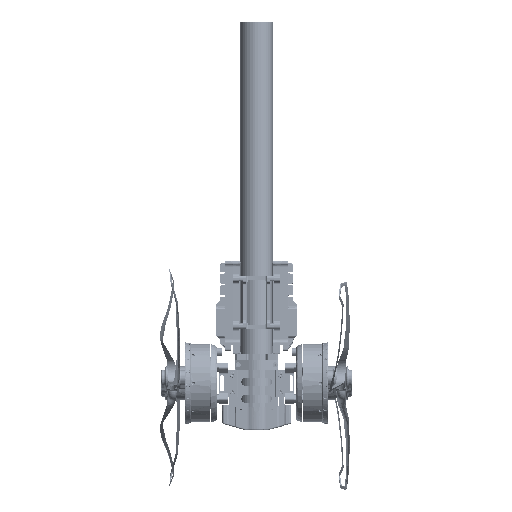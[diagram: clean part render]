
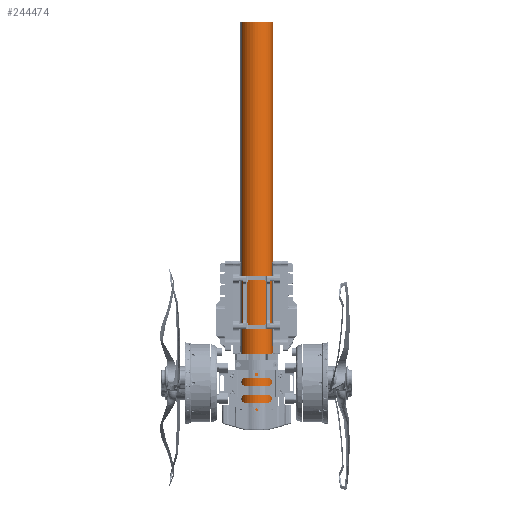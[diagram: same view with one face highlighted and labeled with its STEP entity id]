
A CAD part, left-side view. The second image highlights one B-rep face of the part: STEP entity #244474.
In plain terms, the highlighted cylindrical face has radius 25 mm (diameter 50 mm), a partial arc.
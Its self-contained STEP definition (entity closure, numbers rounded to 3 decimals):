
#2861 = VERTEX_POINT ( 'NONE', #303610 ) ;
#7469 = CYLINDRICAL_SURFACE ( 'NONE', #423863, 25. ) ;
#19576 = AXIS2_PLACEMENT_3D ( 'NONE', #334166, #376784, #296548 ) ;
#23433 = VECTOR ( 'NONE', #344072, 1000. ) ;
#29420 = CARTESIAN_POINT ( 'NONE',  ( -10.881, 22.508, 556. ) ) ;
#43608 = CIRCLE ( 'NONE', #19576, 25. ) ;
#76650 = EDGE_CURVE ( 'NONE', #239993, #486248, #383455, .T. ) ;
#99646 = CARTESIAN_POINT ( 'NONE',  ( 10.881, -22.508, 556. ) ) ;
#119485 = ORIENTED_EDGE ( 'NONE', *, *, #366237, .T. ) ;
#119750 = EDGE_CURVE ( 'NONE', #333189, #2861, #43608, .T. ) ;
#120557 = DIRECTION ( 'NONE',  ( 0., 0., -1. ) ) ;
#123044 = DIRECTION ( 'NONE',  ( 0., 0., -1. ) ) ;
#127967 = CARTESIAN_POINT ( 'NONE',  ( 0., 0., 556. ) ) ;
#137004 = ORIENTED_EDGE ( 'NONE', *, *, #248665, .F. ) ;
#197376 = DIRECTION ( 'NONE',  ( -0.435, 0.9, 0. ) ) ;
#239993 = VERTEX_POINT ( 'NONE', #29420 ) ;
#244474 = ADVANCED_FACE ( 'NONE', ( #384471 ), #7469, .T. ) ;
#248665 = EDGE_CURVE ( 'NONE', #486248, #2861, #266290, .T. ) ;
#266290 = LINE ( 'NONE', #419452, #23433 ) ;
#295298 = AXIS2_PLACEMENT_3D ( 'NONE', #468702, #393262, #197376 ) ;
#296548 = DIRECTION ( 'NONE',  ( -0.435, 0.9, 0. ) ) ;
#303610 = CARTESIAN_POINT ( 'NONE',  ( 10.881, -22.508, -44. ) ) ;
#333189 = VERTEX_POINT ( 'NONE', #397681 ) ;
#334166 = CARTESIAN_POINT ( 'NONE',  ( 0., 0., -44. ) ) ;
#344072 = DIRECTION ( 'NONE',  ( 0., 0., -1. ) ) ;
#344281 = CARTESIAN_POINT ( 'NONE',  ( -10.881, 22.508, 556. ) ) ;
#348811 = ORIENTED_EDGE ( 'NONE', *, *, #119750, .T. ) ;
#366237 = EDGE_CURVE ( 'NONE', #239993, #333189, #384465, .T. ) ;
#376784 = DIRECTION ( 'NONE',  ( 0., 0., 1. ) ) ;
#383455 = CIRCLE ( 'NONE', #295298, 25. ) ;
#384465 = LINE ( 'NONE', #344281, #491709 ) ;
#384471 = FACE_OUTER_BOUND ( 'NONE', #493736, .T. ) ;
#393262 = DIRECTION ( 'NONE',  ( 0., 0., 1. ) ) ;
#397681 = CARTESIAN_POINT ( 'NONE',  ( -10.881, 22.508, -44. ) ) ;
#419452 = CARTESIAN_POINT ( 'NONE',  ( 10.881, -22.508, 556. ) ) ;
#423863 = AXIS2_PLACEMENT_3D ( 'NONE', #127967, #123044, #472269 ) ;
#433471 = ORIENTED_EDGE ( 'NONE', *, *, #76650, .F. ) ;
#468702 = CARTESIAN_POINT ( 'NONE',  ( 0., 0., 556. ) ) ;
#472269 = DIRECTION ( 'NONE',  ( 0.435, -0.9, 0. ) ) ;
#486248 = VERTEX_POINT ( 'NONE', #99646 ) ;
#491709 = VECTOR ( 'NONE', #120557, 1000. ) ;
#493736 = EDGE_LOOP ( 'NONE', ( #433471, #119485, #348811, #137004 ) ) ;
